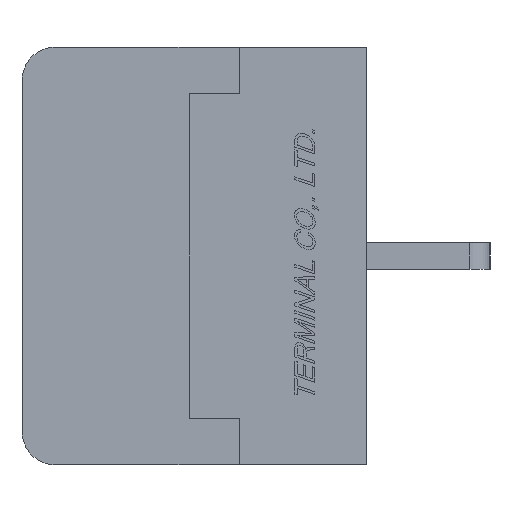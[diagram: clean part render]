
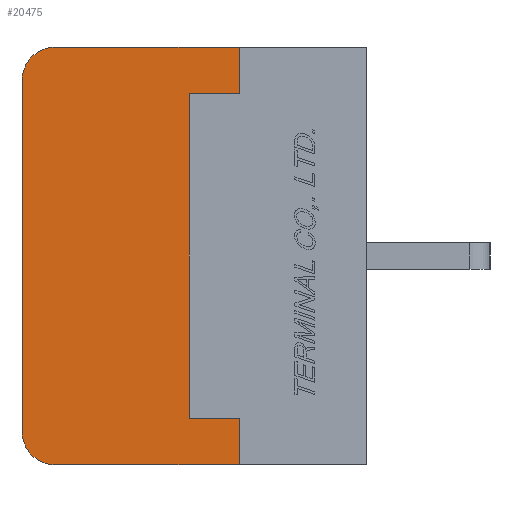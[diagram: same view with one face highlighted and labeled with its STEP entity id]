
A CAD part, left-side view. The second image highlights one B-rep face of the part: STEP entity #20475.
In plain terms, the highlighted planar face has unit normal (-1, 0, 0).
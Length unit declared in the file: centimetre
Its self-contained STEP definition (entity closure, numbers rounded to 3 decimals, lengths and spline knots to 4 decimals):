
#1107=CIRCLE('',#34580,0.1);
#1109=CIRCLE('',#34583,0.1);
#2828=VERTEX_POINT('',#31779);
#2829=VERTEX_POINT('',#31781);
#2831=VERTEX_POINT('',#31787);
#2833=VERTEX_POINT('',#31793);
#2834=VERTEX_POINT('',#31800);
#2835=VERTEX_POINT('',#31801);
#2836=VERTEX_POINT('',#31804);
#2837=VERTEX_POINT('',#31806);
#2838=VERTEX_POINT('',#31808);
#2839=VERTEX_POINT('',#31810);
#5004=VECTOR('',#25164,1.);
#5010=VECTOR('',#25184,1.);
#5011=VECTOR('',#25185,1.);
#5012=VECTOR('',#25186,1.);
#5013=VECTOR('',#25187,1.);
#5014=VECTOR('',#25188,1.);
#5015=VECTOR('',#25189,1.);
#5016=VECTOR('',#25190,1.);
#7248=LINE('',#31780,#5004);
#7254=LINE('',#31799,#5010);
#7255=LINE('',#31802,#5011);
#7256=LINE('',#31803,#5012);
#7257=LINE('',#31805,#5013);
#7258=LINE('',#31807,#5014);
#7259=LINE('',#31809,#5015);
#7260=LINE('',#31811,#5016);
#10252=EDGE_CURVE('',#2828,#2829,#7248,.T.);
#10256=EDGE_CURVE('',#2831,#2828,#1107,.T.);
#10258=EDGE_CURVE('',#2829,#2833,#1109,.T.);
#10262=EDGE_CURVE('',#2834,#2835,#7254,.T.);
#10263=EDGE_CURVE('',#2833,#2834,#7255,.T.);
#10264=EDGE_CURVE('',#2836,#2831,#7256,.T.);
#10265=EDGE_CURVE('',#2837,#2836,#7257,.T.);
#10266=EDGE_CURVE('',#2838,#2837,#7258,.T.);
#10267=EDGE_CURVE('',#2839,#2838,#7259,.T.);
#10268=EDGE_CURVE('',#2835,#2839,#7260,.T.);
#15866=ORIENTED_EDGE('',*,*,#10262,.F.);
#15867=ORIENTED_EDGE('',*,*,#10263,.F.);
#15868=ORIENTED_EDGE('',*,*,#10258,.F.);
#15869=ORIENTED_EDGE('',*,*,#10252,.F.);
#15870=ORIENTED_EDGE('',*,*,#10256,.F.);
#15871=ORIENTED_EDGE('',*,*,#10264,.F.);
#15872=ORIENTED_EDGE('',*,*,#10265,.F.);
#15873=ORIENTED_EDGE('',*,*,#10266,.F.);
#15874=ORIENTED_EDGE('',*,*,#10267,.F.);
#15875=ORIENTED_EDGE('',*,*,#10268,.F.);
#18035=EDGE_LOOP('',(#15866,#15867,#15868,#15869,#15870,#15871,#15872,#15873,
#15874,#15875));
#19293=FACE_BOUND('',#18035,.T.);
#20475=ADVANCED_FACE('',(#19293),#21347,.F.);
#21347=PLANE('',#34585);
#25164=DIRECTION('',(0.,0.,1.));
#25171=DIRECTION('',(1.,0.,0.));
#25172=DIRECTION('',(0.,0.,-0.1));
#25177=DIRECTION('',(1.,0.,0.));
#25178=DIRECTION('',(0.,0.,-0.1));
#25183=DIRECTION('',(1.,0.,0.));
#25184=DIRECTION('',(0.,0.,-1.));
#25185=DIRECTION('',(0.,-1.,0.));
#25186=DIRECTION('',(0.,1.,0.));
#25187=DIRECTION('',(0.,0.,-1.));
#25188=DIRECTION('',(0.,-1.,0.));
#25189=DIRECTION('',(0.,0.,-1.));
#25190=DIRECTION('',(0.,1.,0.));
#31779=CARTESIAN_POINT('',(-0.762,1.03,-0.525));
#31780=CARTESIAN_POINT('',(-0.762,1.03,-0.525));
#31781=CARTESIAN_POINT('',(-0.762,1.03,0.525));
#31787=CARTESIAN_POINT('',(-0.762,0.93,-0.625));
#31788=CARTESIAN_POINT('',(-0.762,0.93,-0.525));
#31792=CARTESIAN_POINT('',(-0.762,0.93,0.525));
#31793=CARTESIAN_POINT('',(-0.762,0.93,0.625));
#31798=CARTESIAN_POINT('',(-0.762,0.5047,0.));
#31799=CARTESIAN_POINT('',(-0.762,0.38,0.625));
#31800=CARTESIAN_POINT('',(-0.762,0.38,0.625));
#31801=CARTESIAN_POINT('',(-0.762,0.38,0.485));
#31802=CARTESIAN_POINT('',(-0.762,0.93,0.625));
#31803=CARTESIAN_POINT('',(-0.762,0.,-0.625));
#31804=CARTESIAN_POINT('',(-0.762,0.38,-0.625));
#31805=CARTESIAN_POINT('',(-0.762,0.38,-0.485));
#31806=CARTESIAN_POINT('',(-0.762,0.38,-0.485));
#31807=CARTESIAN_POINT('',(-0.762,0.53,-0.485));
#31808=CARTESIAN_POINT('',(-0.762,0.53,-0.485));
#31809=CARTESIAN_POINT('',(-0.762,0.53,0.485));
#31810=CARTESIAN_POINT('',(-0.762,0.53,0.485));
#31811=CARTESIAN_POINT('',(-0.762,0.38,0.485));
#34580=AXIS2_PLACEMENT_3D('',#31788,#25171,#25172);
#34583=AXIS2_PLACEMENT_3D('',#31792,#25177,#25178);
#34585=AXIS2_PLACEMENT_3D('',#31798,#25183,$);
